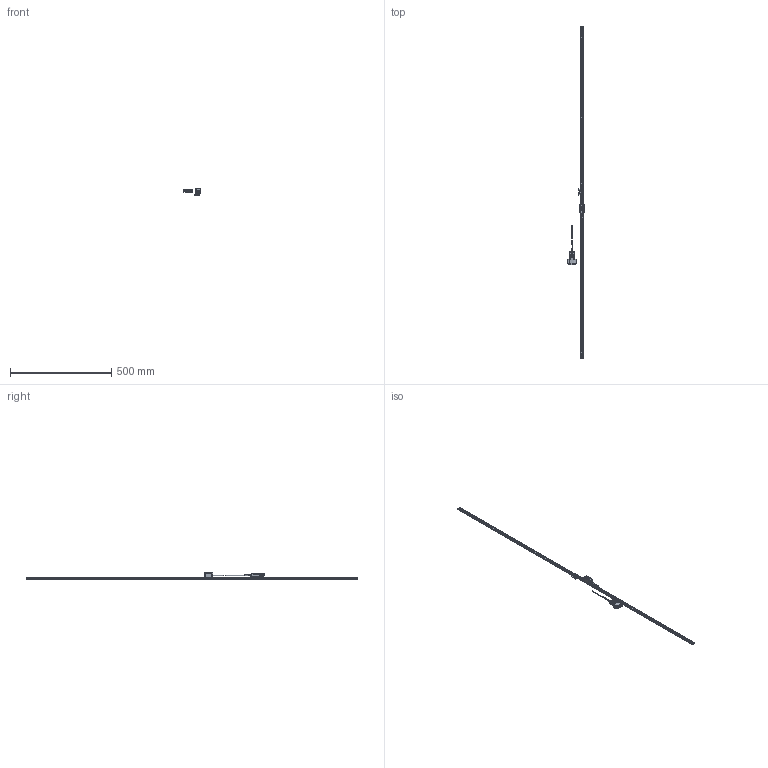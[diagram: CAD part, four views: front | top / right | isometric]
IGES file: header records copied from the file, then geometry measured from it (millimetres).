
Start section: Elysium IGES Interface
Global section: file name: 92HK:\20_商品設計\設計１課\個人\山室\05_作業中雑務\20220810_ST1300 3D HP掲載\ST1300-1600F_G.igs; native system: Creo Elements/Direct Modeling 18.1I  13-Aug-2016; preprocessor: Creo Element/Direct IGES_3D V2.2; author: Unknown; organization: Unknown; date: 20220816.105533; units: millimetre
Bounding box: 83 x 1640 x 30.1 mm (x, y, z)
Volume: 154980.7 mm3; surface area: 93236.1 mm2
Topology: 3 solids, 6 shells, 3622 faces, 9932 edges, 6466 vertices
Faces by surface type: bspline 3622
